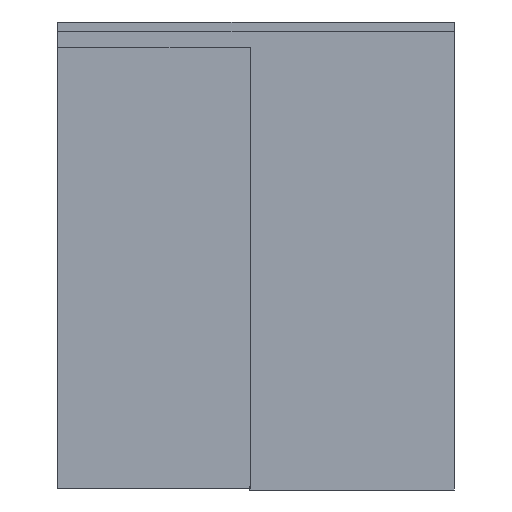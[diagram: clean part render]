
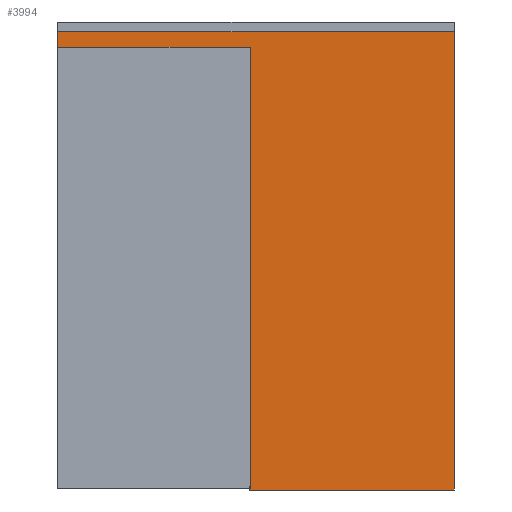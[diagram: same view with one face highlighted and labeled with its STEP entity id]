
A CAD part, front view. The second image highlights one B-rep face of the part: STEP entity #3994.
In plain terms, the highlighted planar face has unit normal (0, -1, 0).
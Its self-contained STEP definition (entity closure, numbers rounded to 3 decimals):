
#3994=ADVANCED_FACE('',(#8255),#8256,.F.);
#8255=FACE_OUTER_BOUND('',#12689,.T.);
#8256=PLANE('',#12690);
#12689=EDGE_LOOP('',(#23802,#23803,#23804,#23805,#23806,#23807));
#12690=AXIS2_PLACEMENT_3D('',#23808,#23809,#23810);
#23802=ORIENTED_EDGE('',*,*,#30446,.T.);
#23803=ORIENTED_EDGE('',*,*,#30436,.F.);
#23804=ORIENTED_EDGE('',*,*,#30440,.F.);
#23805=ORIENTED_EDGE('',*,*,#30444,.T.);
#23806=ORIENTED_EDGE('',*,*,#30447,.F.);
#23807=ORIENTED_EDGE('',*,*,#30448,.F.);
#23808=CARTESIAN_POINT('',(0.0,-46.5,2333.0));
#23809=DIRECTION('',(0.0,1.0,-0.0));
#23810=DIRECTION('',(0.0,0.0,1.0));
#30436=EDGE_CURVE('',#37353,#37348,#37355,.T.);
#30440=EDGE_CURVE('',#37359,#37353,#37361,.T.);
#30444=EDGE_CURVE('',#37359,#37365,#37367,.T.);
#30446=EDGE_CURVE('',#37369,#37348,#37370,.T.);
#30447=EDGE_CURVE('',#37371,#37365,#37372,.T.);
#30448=EDGE_CURVE('',#37369,#37371,#37373,.T.);
#37348=VERTEX_POINT('',#46826);
#37353=VERTEX_POINT('',#46833);
#37355=LINE('',#46836,#46837);
#37359=VERTEX_POINT('',#46842);
#37361=LINE('',#46845,#46846);
#37365=VERTEX_POINT('',#46851);
#37367=LINE('',#46854,#46855);
#37369=VERTEX_POINT('',#46857);
#37370=LINE('',#46858,#46859);
#37371=VERTEX_POINT('',#46860);
#37372=LINE('',#46861,#46862);
#37373=LINE('',#46863,#46864);
#46826=CARTESIAN_POINT('',(995.0,-46.5,2287.5));
#46833=CARTESIAN_POINT('',(995.0,-46.5,0.0));
#46836=CARTESIAN_POINT('',(995.0,-46.5,7.0));
#46837=VECTOR('',#53891,1.0);
#46842=CARTESIAN_POINT('',(2050.0,-46.5,0.0));
#46845=CARTESIAN_POINT('',(1327.5,-46.5,0.0));
#46846=VECTOR('',#53894,1.0);
#46851=CARTESIAN_POINT('',(2050.0,-46.5,2368.0));
#46854=CARTESIAN_POINT('',(2050.0,-46.5,7.0));
#46855=VECTOR('',#53897,1.0);
#46857=CARTESIAN_POINT('',(0.0,-46.5,2287.5));
#46858=CARTESIAN_POINT('',(0.0,-46.5,2287.5));
#46859=VECTOR('',#53898,1.0);
#46860=CARTESIAN_POINT('',(0.0,-46.5,2368.0));
#46861=CARTESIAN_POINT('',(1270.0,-46.5,2368.0));
#46862=VECTOR('',#53899,1.0);
#46863=CARTESIAN_POINT('',(0.0,-46.5,2301.0));
#46864=VECTOR('',#53900,1.0);
#53891=DIRECTION('',(0.0,0.0,1.0));
#53894=DIRECTION('',(-1.0,0.0,0.0));
#53897=DIRECTION('',(0.0,0.0,1.0));
#53898=DIRECTION('',(1.0,0.0,0.0));
#53899=DIRECTION('',(1.0,0.0,0.0));
#53900=DIRECTION('',(0.0,0.0,1.0));
